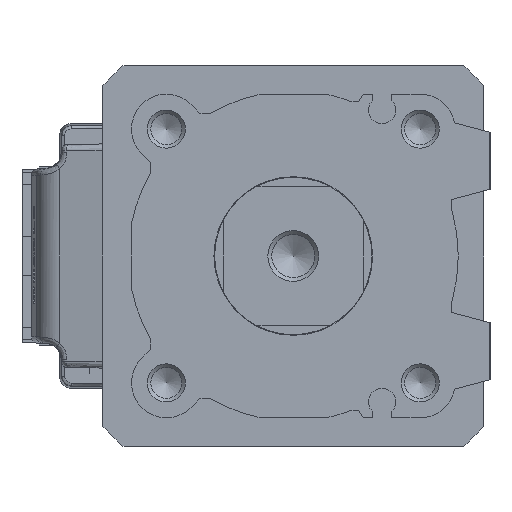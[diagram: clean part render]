
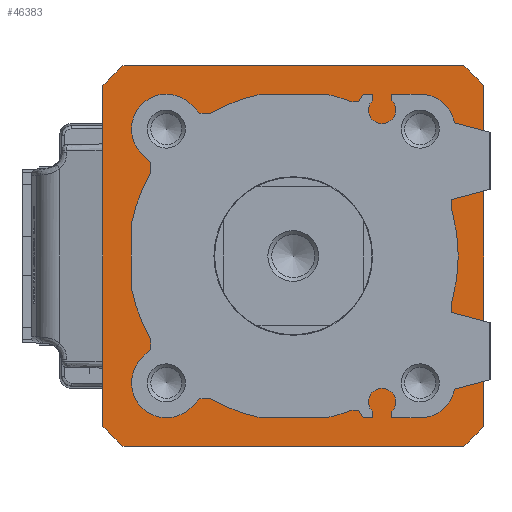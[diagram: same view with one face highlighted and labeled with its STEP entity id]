
A CAD part, left-side view. The second image highlights one B-rep face of the part: STEP entity #46383.
In plain terms, the highlighted planar face has unit normal (-1, 0, 0) as drawn and (0, 0, 1) by its records, which use the part's own axes.
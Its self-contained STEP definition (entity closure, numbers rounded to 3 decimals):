
#299 = CARTESIAN_POINT ( 'NONE',  ( 30., -26.834, 0. ) ) ;
#458 = CARTESIAN_POINT ( 'NONE',  ( 0., 0., 0. ) ) ;
#833 = AXIS2_PLACEMENT_3D ( 'NONE', #20813, #5482, #9307 ) ;
#1597 = CARTESIAN_POINT ( 'NONE',  ( 15.6, 0., 0. ) ) ;
#2329 = ORIENTED_EDGE ( 'NONE', *, *, #5407, .F. ) ;
#3695 = VECTOR ( 'NONE', #43995, 1000. ) ;
#4091 = ORIENTED_EDGE ( 'NONE', *, *, #39872, .T. ) ;
#4179 = ORIENTED_EDGE ( 'NONE', *, *, #19450, .T. ) ;
#5099 = EDGE_CURVE ( 'NONE', #22686, #34561, #9154, .T. ) ;
#5407 = EDGE_CURVE ( 'NONE', #44320, #8734, #19819, .T. ) ;
#5454 = DIRECTION ( 'NONE',  ( 1., 0., 0. ) ) ;
#5482 = DIRECTION ( 'NONE',  ( 0., 0., 1. ) ) ;
#5912 = CARTESIAN_POINT ( 'NONE',  ( 0., 0., 0. ) ) ;
#6505 = CARTESIAN_POINT ( 'NONE',  ( 26.834, 30., 0. ) ) ;
#7343 = EDGE_CURVE ( 'NONE', #17512, #32998, #34029, .T. ) ;
#8209 = DIRECTION ( 'NONE',  ( 1., 0., 0. ) ) ;
#8734 = VERTEX_POINT ( 'NONE', #1597 ) ;
#9154 = CIRCLE ( 'NONE', #23834, 40.25 ) ;
#9307 = DIRECTION ( 'NONE',  ( 1., 0., 0. ) ) ;
#9841 = LINE ( 'NONE', #6505, #21997 ) ;
#10295 = VERTEX_POINT ( 'NONE', #27199 ) ;
#11808 = DIRECTION ( 'NONE',  ( 0., 0., 1. ) ) ;
#13092 = VERTEX_POINT ( 'NONE', #28016 ) ;
#13817 = ORIENTED_EDGE ( 'NONE', *, *, #5099, .T. ) ;
#14677 = VERTEX_POINT ( 'NONE', #17369 ) ;
#14890 = ORIENTED_EDGE ( 'NONE', *, *, #27329, .T. ) ;
#15020 = DIRECTION ( 'NONE',  ( 0., -1., 0. ) ) ;
#15429 = CARTESIAN_POINT ( 'NONE',  ( 30., -26.834, 0. ) ) ;
#17369 = CARTESIAN_POINT ( 'NONE',  ( -26.834, 30., 0. ) ) ;
#17512 = VERTEX_POINT ( 'NONE', #30330 ) ;
#18885 = AXIS2_PLACEMENT_3D ( 'NONE', #458, #46519, #19657 ) ;
#19450 = EDGE_CURVE ( 'NONE', #14677, #10295, #40881, .T. ) ;
#19529 = VECTOR ( 'NONE', #20936, 1000. ) ;
#19585 = VERTEX_POINT ( 'NONE', #47075 ) ;
#19657 = DIRECTION ( 'NONE',  ( 1., 0., 0. ) ) ;
#19819 = CIRCLE ( 'NONE', #36175, 15.6 ) ;
#20813 = CARTESIAN_POINT ( 'NONE',  ( 0., 0., 0. ) ) ;
#20926 = AXIS2_PLACEMENT_3D ( 'NONE', #26585, #34011, #45533 ) ;
#20936 = DIRECTION ( 'NONE',  ( 1., 0., 0. ) ) ;
#21771 = ORIENTED_EDGE ( 'NONE', *, *, #39053, .T. ) ;
#21997 = VECTOR ( 'NONE', #33868, 1000. ) ;
#22686 = VERTEX_POINT ( 'NONE', #37989 ) ;
#23065 = EDGE_LOOP ( 'NONE', ( #2329, #31358 ) ) ;
#23657 = CIRCLE ( 'NONE', #43283, 40.25 ) ;
#23834 = AXIS2_PLACEMENT_3D ( 'NONE', #46162, #50501, #27214 ) ;
#24467 = CARTESIAN_POINT ( 'NONE',  ( -15.6, 0., 0. ) ) ;
#25097 = ORIENTED_EDGE ( 'NONE', *, *, #7343, .T. ) ;
#25509 = EDGE_CURVE ( 'NONE', #34561, #13092, #40157, .T. ) ;
#26585 = CARTESIAN_POINT ( 'NONE',  ( 0., 0., 0. ) ) ;
#27199 = CARTESIAN_POINT ( 'NONE',  ( -30., 26.834, 0. ) ) ;
#27214 = DIRECTION ( 'NONE',  ( 1., 0., 0. ) ) ;
#27329 = EDGE_CURVE ( 'NONE', #10295, #17512, #34440, .T. ) ;
#28016 = CARTESIAN_POINT ( 'NONE',  ( 30., 26.834, 0. ) ) ;
#29171 = DIRECTION ( 'NONE',  ( 1., 0., 0. ) ) ;
#30330 = CARTESIAN_POINT ( 'NONE',  ( -30., -26.834, 0. ) ) ;
#31358 = ORIENTED_EDGE ( 'NONE', *, *, #32613, .F. ) ;
#31877 = EDGE_CURVE ( 'NONE', #13092, #19585, #23657, .T. ) ;
#32021 = ORIENTED_EDGE ( 'NONE', *, *, #25509, .T. ) ;
#32039 = CARTESIAN_POINT ( 'NONE',  ( -26.834, -30., 0. ) ) ;
#32613 = EDGE_CURVE ( 'NONE', #8734, #44320, #47481, .T. ) ;
#32998 = VERTEX_POINT ( 'NONE', #32039 ) ;
#33521 = FACE_BOUND ( 'NONE', #23065, .T. ) ;
#33868 = DIRECTION ( 'NONE',  ( -1., 0., 0. ) ) ;
#34011 = DIRECTION ( 'NONE',  ( 0., 0., 1. ) ) ;
#34029 = CIRCLE ( 'NONE', #20926, 40.25 ) ;
#34440 = LINE ( 'NONE', #50060, #40279 ) ;
#34561 = VERTEX_POINT ( 'NONE', #15429 ) ;
#36175 = AXIS2_PLACEMENT_3D ( 'NONE', #36639, #40473, #5454 ) ;
#36639 = CARTESIAN_POINT ( 'NONE',  ( 0., 0., 0. ) ) ;
#36837 = PLANE ( 'NONE',  #50180 ) ;
#37869 = ORIENTED_EDGE ( 'NONE', *, *, #31877, .T. ) ;
#37989 = CARTESIAN_POINT ( 'NONE',  ( 26.834, -30., 0. ) ) ;
#38894 = CARTESIAN_POINT ( 'NONE',  ( 0., 0., 0. ) ) ;
#39053 = EDGE_CURVE ( 'NONE', #32998, #22686, #48598, .T. ) ;
#39346 = EDGE_LOOP ( 'NONE', ( #4179, #14890, #25097, #21771, #13817, #32021, #37869, #4091 ) ) ;
#39872 = EDGE_CURVE ( 'NONE', #19585, #14677, #9841, .T. ) ;
#40157 = LINE ( 'NONE', #299, #3695 ) ;
#40279 = VECTOR ( 'NONE', #15020, 1000. ) ;
#40378 = CARTESIAN_POINT ( 'NONE',  ( -26.834, -30., 0. ) ) ;
#40473 = DIRECTION ( 'NONE',  ( 0., 0., 1. ) ) ;
#40881 = CIRCLE ( 'NONE', #833, 40.25 ) ;
#41701 = FACE_OUTER_BOUND ( 'NONE', #39346, .T. ) ;
#43283 = AXIS2_PLACEMENT_3D ( 'NONE', #38894, #11808, #8209 ) ;
#43995 = DIRECTION ( 'NONE',  ( 0., 1., 0. ) ) ;
#44320 = VERTEX_POINT ( 'NONE', #24467 ) ;
#45533 = DIRECTION ( 'NONE',  ( 1., 0., 0. ) ) ;
#46162 = CARTESIAN_POINT ( 'NONE',  ( 0., 0., 0. ) ) ;
#46383 = ADVANCED_FACE ( 'NONE', ( #33521, #41701 ), #36837, .T. ) ;
#46519 = DIRECTION ( 'NONE',  ( 0., 0., 1. ) ) ;
#47075 = CARTESIAN_POINT ( 'NONE',  ( 26.834, 30., 0. ) ) ;
#47481 = CIRCLE ( 'NONE', #18885, 15.6 ) ;
#48598 = LINE ( 'NONE', #40378, #19529 ) ;
#49400 = DIRECTION ( 'NONE',  ( 0., 0., 1. ) ) ;
#50060 = CARTESIAN_POINT ( 'NONE',  ( -30., 26.834, 0. ) ) ;
#50180 = AXIS2_PLACEMENT_3D ( 'NONE', #5912, #49400, #29171 ) ;
#50501 = DIRECTION ( 'NONE',  ( 0., 0., 1. ) ) ;
